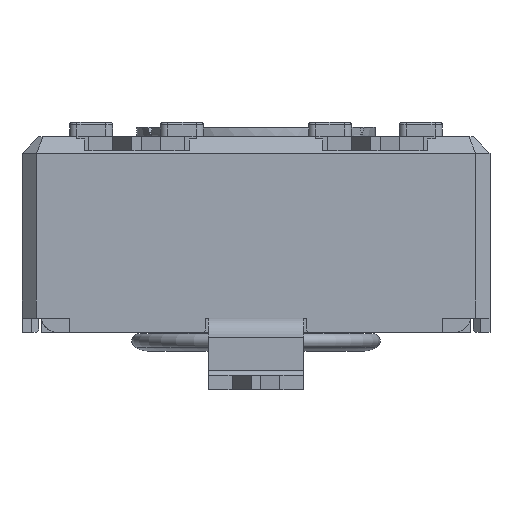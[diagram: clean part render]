
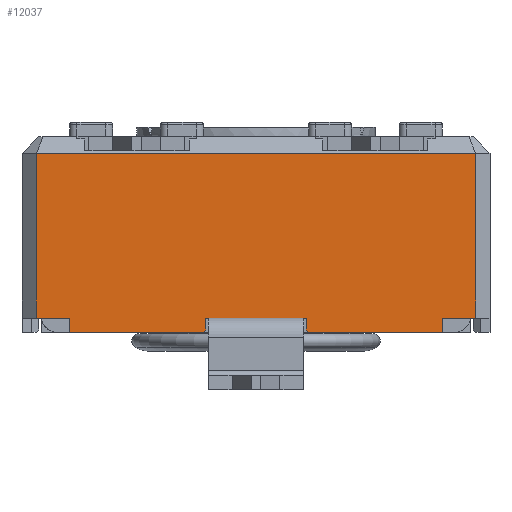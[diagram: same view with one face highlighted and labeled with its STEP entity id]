
A CAD part, front view. The second image highlights one B-rep face of the part: STEP entity #12037.
In plain terms, the highlighted planar face has unit normal (0, -1, 0).
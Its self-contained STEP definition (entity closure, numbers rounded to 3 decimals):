
#1046=FACE_OUTER_BOUND('',#1662,.T.);
#1662=EDGE_LOOP('',(#10590,#10591,#10592,#10593,#10594,#10595,#10596,#10597,
#10598,#10599,#10600,#10601,#10602,#10603,#10604,#10605));
#1735=LINE('',#16296,#3137);
#2344=LINE('',#17757,#3746);
#2350=LINE('',#17769,#3752);
#2358=LINE('',#17785,#3760);
#2364=LINE('',#17796,#3766);
#2528=LINE('',#18317,#3930);
#2534=LINE('',#18327,#3936);
#2537=LINE('',#18334,#3939);
#2550=LINE('',#18359,#3952);
#2606=LINE('',#18467,#4008);
#2608=LINE('',#18472,#4010);
#2610=LINE('',#18475,#4012);
#2612=LINE('',#18480,#4014);
#2802=LINE('',#18939,#4204);
#3045=LINE('',#19500,#4447);
#3047=LINE('',#19507,#4449);
#3137=VECTOR('',#13082,10.);
#3746=VECTOR('',#14371,10.);
#3752=VECTOR('',#14377,10.);
#3760=VECTOR('',#14387,10.);
#3766=VECTOR('',#14393,10.);
#3930=VECTOR('',#14865,10.);
#3936=VECTOR('',#14873,10.);
#3939=VECTOR('',#14880,10.);
#3952=VECTOR('',#14901,10.);
#4008=VECTOR('',#15001,10.);
#4010=VECTOR('',#15009,10.);
#4012=VECTOR('',#15013,10.);
#4014=VECTOR('',#15021,10.);
#4204=VECTOR('',#15459,10.);
#4447=VECTOR('',#15998,10.);
#4449=VECTOR('',#16010,10.);
#4519=VERTEX_POINT('',#16248);
#4532=VERTEX_POINT('',#16295);
#5044=VERTEX_POINT('',#17756);
#5049=VERTEX_POINT('',#17766);
#5050=VERTEX_POINT('',#17768);
#5056=VERTEX_POINT('',#17782);
#5057=VERTEX_POINT('',#17784);
#5062=VERTEX_POINT('',#17794);
#5210=VERTEX_POINT('',#18315);
#5211=VERTEX_POINT('',#18316);
#5214=VERTEX_POINT('',#18325);
#5215=VERTEX_POINT('',#18332);
#5216=VERTEX_POINT('',#18333);
#5224=VERTEX_POINT('',#18358);
#5374=VERTEX_POINT('',#18936);
#5375=VERTEX_POINT('',#18938);
#5652=EDGE_CURVE('',#4532,#4519,#1735,.T.);
#6387=EDGE_CURVE('',#5044,#4532,#2344,.T.);
#6393=EDGE_CURVE('',#5050,#5049,#2350,.T.);
#6401=EDGE_CURVE('',#5057,#5056,#2358,.T.);
#6407=EDGE_CURVE('',#4519,#5062,#2364,.T.);
#6649=EDGE_CURVE('',#5210,#5211,#2528,.T.);
#6655=EDGE_CURVE('',#5210,#5214,#2534,.T.);
#6658=EDGE_CURVE('',#5215,#5216,#2537,.T.);
#6671=EDGE_CURVE('',#5224,#5216,#2550,.T.);
#6727=EDGE_CURVE('',#5044,#5215,#2606,.T.);
#6729=EDGE_CURVE('',#5049,#5224,#2608,.T.);
#6731=EDGE_CURVE('',#5057,#5214,#2610,.T.);
#6733=EDGE_CURVE('',#5062,#5211,#2612,.T.);
#6960=EDGE_CURVE('',#5374,#5375,#2802,.T.);
#7239=EDGE_CURVE('',#5375,#5056,#3045,.T.);
#7241=EDGE_CURVE('',#5374,#5050,#3047,.T.);
#10590=ORIENTED_EDGE('',*,*,#6649,.F.);
#10591=ORIENTED_EDGE('',*,*,#6655,.T.);
#10592=ORIENTED_EDGE('',*,*,#6731,.F.);
#10593=ORIENTED_EDGE('',*,*,#6401,.T.);
#10594=ORIENTED_EDGE('',*,*,#7239,.F.);
#10595=ORIENTED_EDGE('',*,*,#6960,.F.);
#10596=ORIENTED_EDGE('',*,*,#7241,.T.);
#10597=ORIENTED_EDGE('',*,*,#6393,.T.);
#10598=ORIENTED_EDGE('',*,*,#6729,.T.);
#10599=ORIENTED_EDGE('',*,*,#6671,.T.);
#10600=ORIENTED_EDGE('',*,*,#6658,.F.);
#10601=ORIENTED_EDGE('',*,*,#6727,.F.);
#10602=ORIENTED_EDGE('',*,*,#6387,.T.);
#10603=ORIENTED_EDGE('',*,*,#5652,.T.);
#10604=ORIENTED_EDGE('',*,*,#6407,.T.);
#10605=ORIENTED_EDGE('',*,*,#6733,.T.);
#11238=PLANE('',#12921);
#12037=ADVANCED_FACE('',(#1046),#11238,.T.);
#12921=AXIS2_PLACEMENT_3D('',#19508,#16011,#16012);
#13082=DIRECTION('',(1.,0.,0.));
#14371=DIRECTION('',(1.,0.,0.));
#14377=DIRECTION('',(1.,0.,0.));
#14387=DIRECTION('',(1.,0.,0.));
#14393=DIRECTION('',(1.,0.,0.));
#14865=DIRECTION('',(-0.707,0.,0.707));
#14873=DIRECTION('',(1.,0.,0.));
#14880=DIRECTION('',(-0.707,0.,-0.707));
#14901=DIRECTION('',(1.,0.,0.));
#15001=DIRECTION('',(0.,0.,-1.));
#15009=DIRECTION('',(0.,0.,-1.));
#15013=DIRECTION('',(0.,0.,-1.));
#15021=DIRECTION('',(0.,0.,-1.));
#15459=DIRECTION('',(1.,0.,0.));
#15998=DIRECTION('',(0.,0.,-1.));
#16010=DIRECTION('',(0.,0.,-1.));
#16011=DIRECTION('center_axis',(0.,-1.,0.));
#16012=DIRECTION('ref_axis',(0.,0.,-1.));
#16248=CARTESIAN_POINT('',(-25.448,-17.99,-3.8));
#16295=CARTESIAN_POINT('',(-27.448,-17.99,-3.8));
#16296=CARTESIAN_POINT('',(-21.848,-17.99,-3.8));
#17756=CARTESIAN_POINT('',(-27.498,-17.99,-3.8));
#17757=CARTESIAN_POINT('',(-21.848,-17.99,-3.8));
#17766=CARTESIAN_POINT('',(-30.348,-17.99,-3.8));
#17768=CARTESIAN_POINT('',(-31.048,-17.99,-3.8));
#17769=CARTESIAN_POINT('',(-21.848,-17.99,-3.8));
#17782=CARTESIAN_POINT('',(-21.848,-17.99,-3.8));
#17784=CARTESIAN_POINT('',(-22.548,-17.99,-3.8));
#17785=CARTESIAN_POINT('',(-21.848,-17.99,-3.8));
#17794=CARTESIAN_POINT('',(-25.398,-17.99,-3.8));
#17796=CARTESIAN_POINT('',(-21.848,-17.99,-3.8));
#18315=CARTESIAN_POINT('',(-25.348,-17.99,-4.1));
#18316=CARTESIAN_POINT('',(-25.398,-17.99,-4.05));
#18317=CARTESIAN_POINT('',(-27.81,-17.99,-1.637));
#18325=CARTESIAN_POINT('',(-22.548,-17.99,-4.1));
#18327=CARTESIAN_POINT('',(-21.848,-17.99,-4.1));
#18332=CARTESIAN_POINT('',(-27.498,-17.99,-4.05));
#18333=CARTESIAN_POINT('',(-27.548,-17.99,-4.1));
#18334=CARTESIAN_POINT('',(-27.385,-17.99,-3.938));
#18358=CARTESIAN_POINT('',(-30.348,-17.99,-4.1));
#18359=CARTESIAN_POINT('',(-21.848,-17.99,-4.1));
#18467=CARTESIAN_POINT('',(-27.498,-17.99,-3.8));
#18472=CARTESIAN_POINT('',(-30.348,-17.99,-3.8));
#18475=CARTESIAN_POINT('',(-22.548,-17.99,-3.8));
#18480=CARTESIAN_POINT('',(-25.398,-17.99,-3.8));
#18936=CARTESIAN_POINT('',(-31.048,-17.99,-0.35));
#18938=CARTESIAN_POINT('',(-21.848,-17.99,-0.35));
#18939=CARTESIAN_POINT('',(-28.748,-17.99,-0.35));
#19500=CARTESIAN_POINT('',(-21.848,-17.99,0.));
#19507=CARTESIAN_POINT('',(-31.048,-17.99,0.));
#19508=CARTESIAN_POINT('Origin',(-31.048,-17.99,0.));
